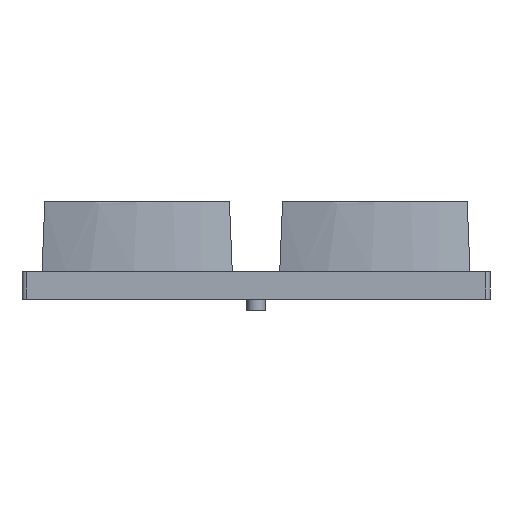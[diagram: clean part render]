
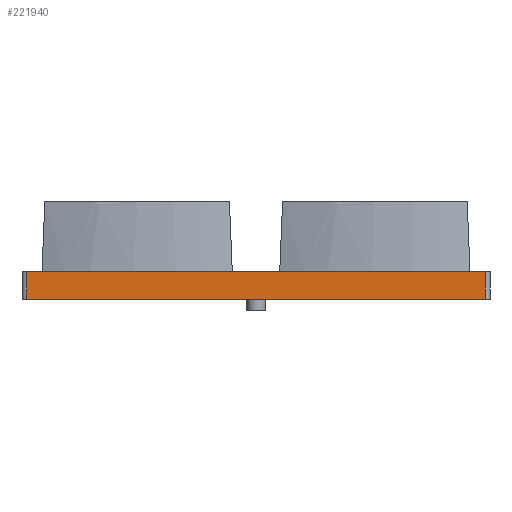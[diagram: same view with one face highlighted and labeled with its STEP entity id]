
A CAD part, front view. The second image highlights one B-rep face of the part: STEP entity #221940.
In plain terms, the highlighted planar face has unit normal (0, -1, 0) as drawn and (0, 1, 0) by its records, which use the part's own axes.
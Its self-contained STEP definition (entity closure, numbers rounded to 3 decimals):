
#46740=CARTESIAN_POINT('',(-11.8,12.3,2.9));
#46750=VERTEX_POINT('',#46740);
#46800=CARTESIAN_POINT('',(0.,12.3,2.9));
#46810=DIRECTION('',(-1.,0.,0.));
#46820=VECTOR('',#46810,1.);
#46830=LINE('',#46800,#46820);
#46840=CARTESIAN_POINT('',(37.2,12.3,2.9));
#46850=VERTEX_POINT('',#46840);
#46860=EDGE_CURVE('',#46850,#46750,#46830,.T.);
#209710=CARTESIAN_POINT('',(-11.8,12.3,0.));
#209720=VERTEX_POINT('',#209710);
#210070=CARTESIAN_POINT('',(37.2,12.3,0.));
#210080=VERTEX_POINT('',#210070);
#210110=CARTESIAN_POINT('',(0.,12.3,0.));
#210120=DIRECTION('',(-1.,0.,0.));
#210130=VECTOR('',#210120,1.);
#210140=LINE('',#210110,#210130);
#210150=EDGE_CURVE('',#210080,#209720,#210140,.T.);
#221690=CARTESIAN_POINT('',(-11.8,12.3,0.));
#221700=DIRECTION('',(0.,0.,1.));
#221710=VECTOR('',#221700,1.);
#221720=LINE('',#221690,#221710);
#221730=EDGE_CURVE('',#209720,#46750,#221720,.T.);
#221780=CARTESIAN_POINT('',(0.,12.3,0.));
#221790=DIRECTION('',(-0.,1.,0.));
#221800=DIRECTION('',(1.,0.,0.));
#221810=AXIS2_PLACEMENT_3D('',#221780,#221790,#221800);
#221820=PLANE('',#221810);
#221830=ORIENTED_EDGE('',*,*,#210150,.T.);
#221840=CARTESIAN_POINT('',(37.2,12.3,0.));
#221850=DIRECTION('',(0.,0.,-1.));
#221860=VECTOR('',#221850,1.);
#221870=LINE('',#221840,#221860);
#221880=EDGE_CURVE('',#46850,#210080,#221870,.T.);
#221890=ORIENTED_EDGE('',*,*,#221880,.T.);
#221900=ORIENTED_EDGE('',*,*,#46860,.F.);
#221910=ORIENTED_EDGE('',*,*,#221730,.T.);
#221920=EDGE_LOOP('',(#221910,#221900,#221890,#221830));
#221930=FACE_OUTER_BOUND('',#221920,.T.);
#221940=ADVANCED_FACE('',(#221930),#221820,.T.);
